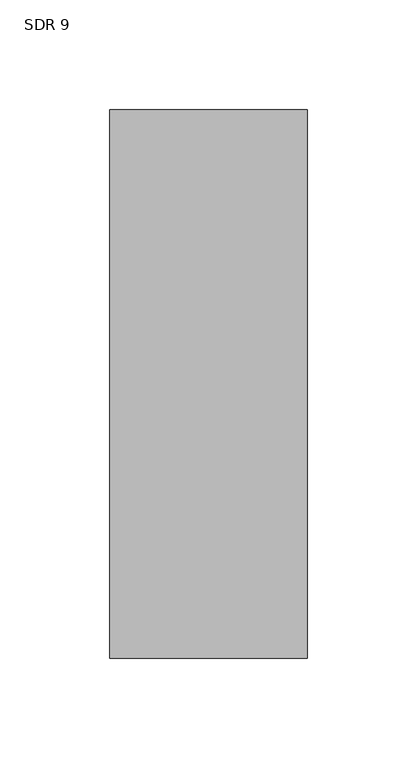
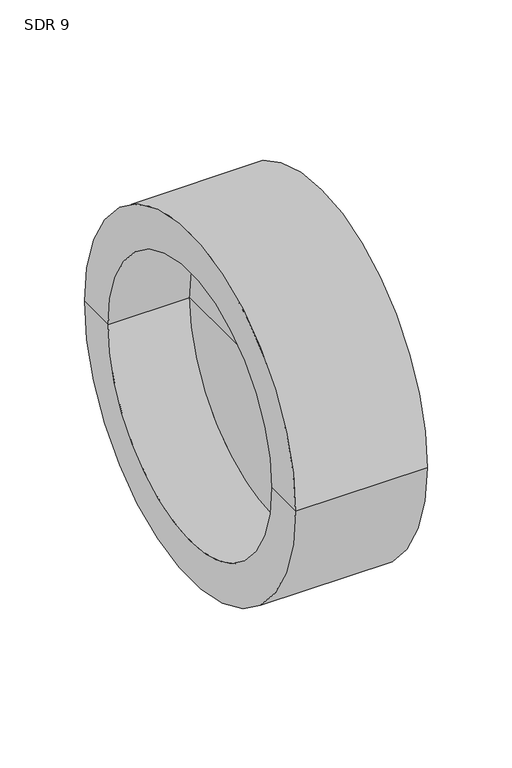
"""IFC4 building model written with IfcOpenShell, lengths in millimetres: pipe fitting geometry, Aquatherm - End Cap Butt-Weld : SDR 9."""

from ifc_helpers import new_model, si_unit, frame, origin, place, context, project, spatial, polyline, circle_curve, source, transform, mapped, element, save
from ifc_brep_helpers import plane_surface, cylinder_surface, revolved_surface, advanced_brep


def sdr_9_680abe32(model_context):
    return source(origin(), model_context, "Body", "AdvancedBrep", [
        advanced_brep(
        [(89.916, -124.968, 0.0), (89.916, 124.968, 0.0), (89.916, 0.0, 0.0), (55.88, 0.0, 0.0), (55.88, 97.155, 0.0), (55.88, -97.155, 0.0), (0.0, 97.155, 0.0), (0.0, -97.155, 0.0), (0.0, 124.968, 0.0), (0.0, -124.968, 0.0)],
        [
            (0, 1, circle_curve(frame((89.916, 0.0, 0.0), z_axis=(1.0, 0.0, 0.0), x_axis=(0.0, 1.0, 0.0)), 124.968)),
            (1, 2),
            (2, 0),
            (1, 0, circle_curve(frame((89.916, 0.0, 0.0), z_axis=(1.0, 0.0, 0.0), x_axis=(0.0, 1.0, 0.0)), 124.968)),
            (3, 4),
            (4, 5, circle_curve(frame((55.88, 0.0, 0.0), z_axis=(-1.0, 0.0, 0.0), x_axis=(0.0, 1.0, 0.0)), 97.155)),
            (5, 3),
            (5, 4, circle_curve(frame((55.88, 0.0, 0.0), z_axis=(-1.0, 0.0, 0.0), x_axis=(0.0, 1.0, 0.0)), 97.155)),
            (4, 6),
            (6, 7, circle_curve(frame((0.0, 0.0, 0.0), z_axis=(-1.0, 0.0, 0.0), x_axis=(0.0, 1.0, 0.0)), 97.155)),
            (7, 5),
            (7, 6, circle_curve(frame((0.0, 0.0, 0.0), z_axis=(-1.0, 0.0, 0.0), x_axis=(0.0, 1.0, 0.0)), 97.155)),
            (6, 8),
            (8, 9, circle_curve(frame((0.0, 0.0, 0.0), z_axis=(-1.0, 0.0, 0.0), x_axis=(0.0, 1.0, 0.0)), 124.968)),
            (9, 7),
            (9, 8, circle_curve(frame((0.0, 0.0, 0.0), z_axis=(-1.0, 0.0, 0.0), x_axis=(0.0, 1.0, 0.0)), 124.968)),
            (8, 1),
            (0, 9),
        ],
        [
            plane_surface(frame((89.916, 0.0, 0.0), z_axis=(1.0, 0.0, 0.0), x_axis=(0.0, 1.0, 0.0))),
            plane_surface(frame((55.88, 0.0, 0.0), z_axis=(-1.0, 0.0, 0.0), x_axis=(0.0, 1.0, 0.0))),
            revolved_surface(polyline([(0.0, 97.155, 0.0), (55.88000000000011, 97.155, 0.0)]), (-1354.074, 0.0, 0.0), (-1.0, 0.0, 0.0)),
            plane_surface(frame((0.0, 0.0, 0.0), z_axis=(-1.0, 0.0, 0.0), x_axis=(0.0, 1.0, 0.0))),
            cylinder_surface(frame((-1354.074, 0.0, 0.0), z_axis=(-1.0, 0.0, 0.0), x_axis=(0.0, 1.0, 0.0)), 124.968),
        ],
        [
            (0, [[1, 2, 3]]),
            (0, [[4, -3, -2]]),
            (1, [[5, 6, 7]]),
            (1, [[-7, 8, -5]]),
            (2, [[-6, 9, 10, 11]]),
            (2, [[-8, -11, 12, -9]]),
            (3, [[-10, 13, 14, 15]]),
            (3, [[-12, -15, 16, -13]]),
            (4, [[-14, 17, -1, 18]]),
            (4, [[-16, -18, -4, -17]]),
        ],
    ),
    ])


if __name__ == "__main__":
    model = new_model("IFC4")
    model_context = context("Model", 3, world=origin())
    ifc_project = project(units=[si_unit("LENGTHUNIT", "METRE", prefix="MILLI")], contexts=[model_context])
    site = spatial("IfcSite", under=ifc_project)
    building = spatial("IfcBuilding", under=site)
    placement = place(None, origin())
    sdr_9_shape = sdr_9_680abe32(model_context)
    element("IfcPipeFitting", 1, ObjectType="Aquatherm - End Cap Butt-Weld : SDR 9", at=placement, inside=building, context=model_context, shape_type="MappedRepresentation", body=[
        mapped(sdr_9_shape, transform((0.0, 0.0, 0.0), x_axis=(1.0, 0.0, 0.0), y_axis=(0.0, 1.0, 0.0), z_axis=(0.0, 0.0, 1.0))),
    ])
    save(model, "model.ifc")
